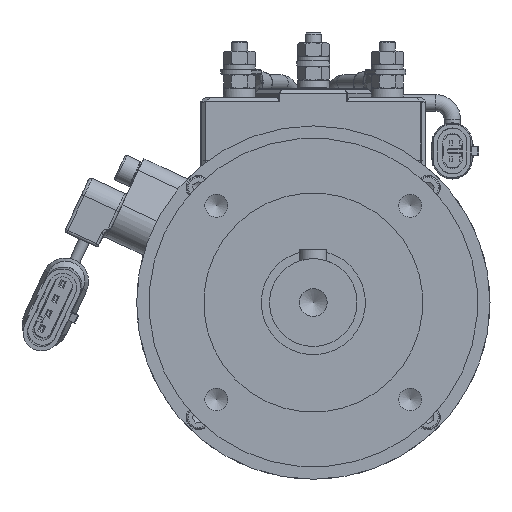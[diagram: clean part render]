
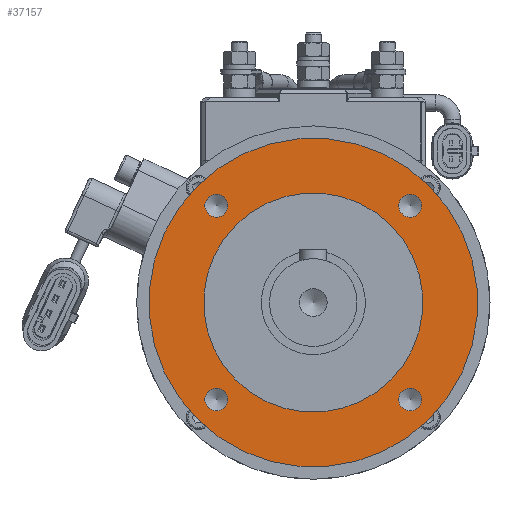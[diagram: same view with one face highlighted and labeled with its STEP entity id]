
A CAD part, front view. The second image highlights one B-rep face of the part: STEP entity #37157.
In plain terms, the highlighted planar face has unit normal (0, -1, 0).
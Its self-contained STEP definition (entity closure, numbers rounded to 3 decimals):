
#697=FACE_BOUND('',#11725,.T.);
#698=FACE_BOUND('',#11726,.T.);
#699=FACE_BOUND('',#11727,.T.);
#700=FACE_BOUND('',#11728,.T.);
#701=FACE_BOUND('',#11729,.T.);
#7711=PLANE('',#40354);
#9581=FACE_OUTER_BOUND('',#11724,.T.);
#11724=EDGE_LOOP('',(#30592));
#11725=EDGE_LOOP('',(#30593));
#11726=EDGE_LOOP('',(#30594));
#11727=EDGE_LOOP('',(#30595));
#11728=EDGE_LOOP('',(#30596));
#11729=EDGE_LOOP('',(#30597));
#13370=CIRCLE('',#40325,4.188);
#13372=CIRCLE('',#40329,4.188);
#13374=CIRCLE('',#40333,4.188);
#13376=CIRCLE('',#40337,4.188);
#13386=CIRCLE('',#40353,60.);
#13387=CIRCLE('',#40355,40.);
#16687=VERTEX_POINT('',#65447);
#16690=VERTEX_POINT('',#65456);
#16693=VERTEX_POINT('',#65465);
#16696=VERTEX_POINT('',#65474);
#16702=VERTEX_POINT('',#65499);
#16703=VERTEX_POINT('',#65503);
#21465=EDGE_CURVE('',#16687,#16687,#13370,.T.);
#21469=EDGE_CURVE('',#16690,#16690,#13372,.T.);
#21473=EDGE_CURVE('',#16693,#16693,#13374,.T.);
#21477=EDGE_CURVE('',#16696,#16696,#13376,.T.);
#21490=EDGE_CURVE('',#16702,#16702,#13386,.T.);
#21492=EDGE_CURVE('',#16703,#16703,#13387,.T.);
#30592=ORIENTED_EDGE('',*,*,#21490,.T.);
#30593=ORIENTED_EDGE('',*,*,#21465,.T.);
#30594=ORIENTED_EDGE('',*,*,#21469,.T.);
#30595=ORIENTED_EDGE('',*,*,#21473,.T.);
#30596=ORIENTED_EDGE('',*,*,#21477,.T.);
#30597=ORIENTED_EDGE('',*,*,#21492,.F.);
#37157=ADVANCED_FACE('',(#9581,#697,#698,#699,#700,#701),#7711,.T.);
#40325=AXIS2_PLACEMENT_3D('',#65448,#48878,#48879);
#40329=AXIS2_PLACEMENT_3D('',#65457,#48888,#48889);
#40333=AXIS2_PLACEMENT_3D('',#65466,#48898,#48899);
#40337=AXIS2_PLACEMENT_3D('',#65475,#48908,#48909);
#40353=AXIS2_PLACEMENT_3D('',#65500,#48943,#48944);
#40354=AXIS2_PLACEMENT_3D('',#65502,#48946,#48947);
#40355=AXIS2_PLACEMENT_3D('',#65504,#48948,#48949);
#48878=DIRECTION('center_axis',(0.,1.,0.));
#48879=DIRECTION('ref_axis',(-0.707,0.,0.707));
#48888=DIRECTION('center_axis',(0.,1.,0.));
#48889=DIRECTION('ref_axis',(0.707,0.,0.707));
#48898=DIRECTION('center_axis',(0.,1.,0.));
#48899=DIRECTION('ref_axis',(0.707,0.,-0.707));
#48908=DIRECTION('center_axis',(0.,1.,0.));
#48909=DIRECTION('ref_axis',(-0.707,0.,-0.707));
#48943=DIRECTION('center_axis',(0.,-1.,0.));
#48944=DIRECTION('ref_axis',(-0.707,0.,0.707));
#48946=DIRECTION('center_axis',(0.,-1.,0.));
#48947=DIRECTION('ref_axis',(-0.707,0.,0.707));
#48948=DIRECTION('center_axis',(0.,-1.,0.));
#48949=DIRECTION('ref_axis',(-0.707,0.,0.707));
#65447=CARTESIAN_POINT('',(-32.394,-146.6,-38.317));
#65448=CARTESIAN_POINT('Origin',(-35.355,-146.6,-35.355));
#65456=CARTESIAN_POINT('',(-38.317,-146.6,32.394));
#65457=CARTESIAN_POINT('Origin',(-35.355,-146.6,35.355));
#65465=CARTESIAN_POINT('',(32.394,-146.6,38.317));
#65466=CARTESIAN_POINT('Origin',(35.355,-146.6,35.355));
#65474=CARTESIAN_POINT('',(38.317,-146.6,-32.394));
#65475=CARTESIAN_POINT('Origin',(35.355,-146.6,-35.355));
#65499=CARTESIAN_POINT('',(42.426,-146.6,-42.426));
#65500=CARTESIAN_POINT('Origin',(0.,-146.6,0.));
#65502=CARTESIAN_POINT('Origin',(-35.355,-146.6,35.355));
#65503=CARTESIAN_POINT('',(28.284,-146.6,-28.284));
#65504=CARTESIAN_POINT('Origin',(0.,-146.6,0.));
